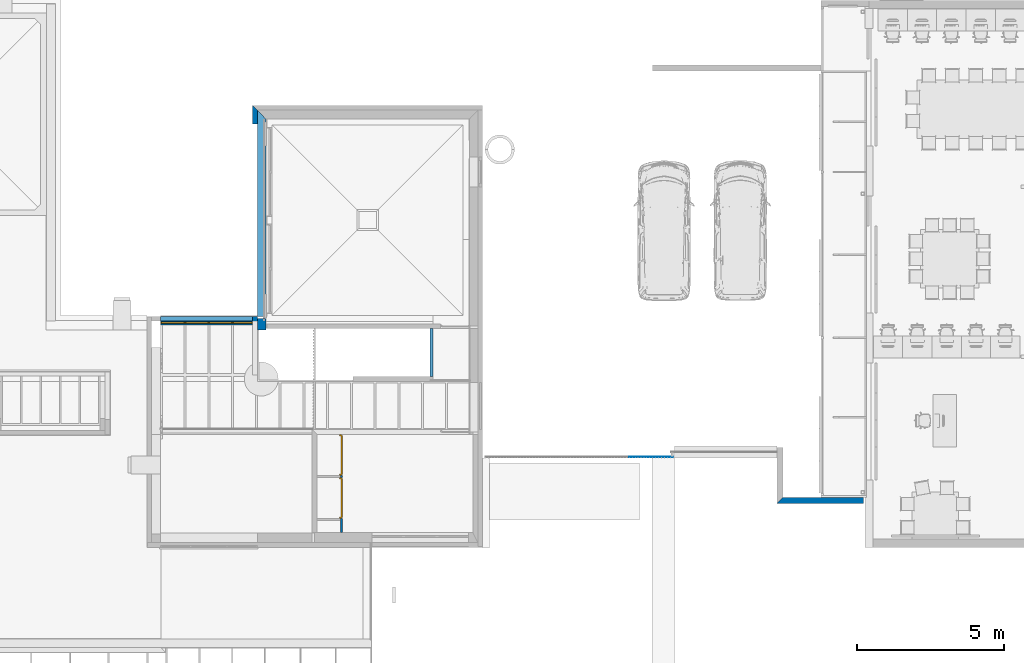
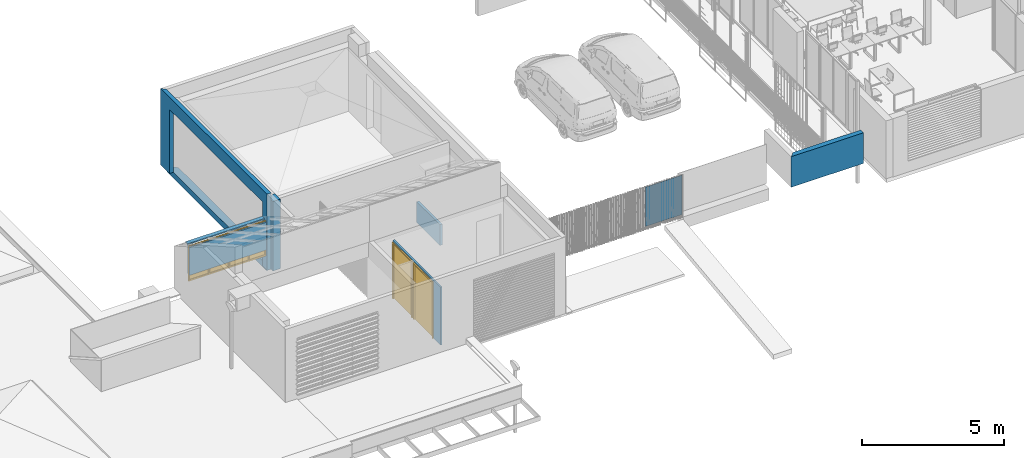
# One storey, part 16 of 51: 9 walls, 4 windows, 2 doors, 7 openings.
"""IFC2X3 building model written with IfcOpenShell, lengths in metres."""

from ifc_helpers import new_model, entity, si_unit, converted_unit, derived_unit, direction, frame, frame_2d, origin, place, context, subcontext, project, spatial, polyline, rectangle, outline, extrude, faceted_brep, source, transform, mapped, material, material_list, layer, layer_set, layer_usage, type_object, type_shapes, element, fill, save


model = new_model("IFC2X3")

# Units and contexts
model_context = context("Model", 3, precision=1e-05, world=origin(), true_north=direction((6.123031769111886e-17, 1.0)))
body_context = subcontext(model_context, "Body", "Model", "MODEL_VIEW")
ifc_project = project(units=[si_unit("LENGTHUNIT", "METRE"), si_unit("AREAUNIT", "SQUARE_METRE"), si_unit("VOLUMEUNIT", "CUBIC_METRE"), converted_unit("PLANEANGLEUNIT", "DEGREE", entity("IfcRatioMeasure", 0.017453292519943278), si_unit("PLANEANGLEUNIT", "RADIAN"), dimensions=[0, 0, 0, 0, 0, 0, 0]), si_unit("MASSUNIT", "GRAM", prefix="KILO"), derived_unit("MASSDENSITYUNIT", [(si_unit("MASSUNIT", "GRAM", prefix="KILO"), 1), (si_unit("LENGTHUNIT", "METRE"), -3)]), derived_unit("MOMENTOFINERTIAUNIT", [(si_unit("LENGTHUNIT", "METRE"), 4)]), si_unit("TIMEUNIT", "SECOND"), si_unit("FREQUENCYUNIT", "HERTZ"), si_unit("THERMODYNAMICTEMPERATUREUNIT", "DEGREE_CELSIUS"), derived_unit("THERMALTRANSMITTANCEUNIT", [(si_unit("MASSUNIT", "GRAM", prefix="KILO"), 1), (si_unit("THERMODYNAMICTEMPERATUREUNIT", "KELVIN"), -1), (si_unit("TIMEUNIT", "SECOND"), -3)]), derived_unit("THERMALCONDUCTANCEUNIT", [(si_unit("MASSUNIT", "GRAM", prefix="KILO"), 1), (si_unit("LENGTHUNIT", "METRE"), 1), (si_unit("THERMODYNAMICTEMPERATUREUNIT", "KELVIN"), -1), (si_unit("TIMEUNIT", "SECOND"), -3)]), derived_unit("VOLUMETRICFLOWRATEUNIT", [(si_unit("LENGTHUNIT", "METRE"), 3), (si_unit("TIMEUNIT", "SECOND"), -1)]), derived_unit("MASSFLOWRATEUNIT", [(si_unit("MASSUNIT", "GRAM", prefix="KILO"), 1), (si_unit("TIMEUNIT", "SECOND"), -1)]), derived_unit("ROTATIONALFREQUENCYUNIT", [(si_unit("TIMEUNIT", "SECOND"), -1)]), si_unit("ELECTRICCURRENTUNIT", "AMPERE"), si_unit("ELECTRICVOLTAGEUNIT", "VOLT"), si_unit("POWERUNIT", "WATT"), si_unit("FORCEUNIT", "NEWTON", prefix="KILO"), si_unit("ILLUMINANCEUNIT", "LUX"), si_unit("LUMINOUSFLUXUNIT", "LUMEN"), si_unit("LUMINOUSINTENSITYUNIT", "CANDELA"), derived_unit("USERDEFINED", [(si_unit("MASSUNIT", "GRAM", prefix="KILO"), -1), (si_unit("LENGTHUNIT", "METRE"), -2), (si_unit("TIMEUNIT", "SECOND"), 3), (si_unit("LUMINOUSFLUXUNIT", "LUMEN"), 1)]), derived_unit("USERDEFINED", [(si_unit("MASSUNIT", "GRAM", prefix="KILO"), 1), (si_unit("LENGTHUNIT", "METRE"), 3), (si_unit("TIMEUNIT", "SECOND"), -3), (si_unit("ELECTRICCURRENTUNIT", "AMPERE"), -2)]), derived_unit("USERDEFINED", [(si_unit("LENGTHUNIT", "METRE"), 2), (si_unit("TIMEUNIT", "SECOND"), -2)]), derived_unit("SOUNDPOWERUNIT", [(si_unit("MASSUNIT", "GRAM", prefix="KILO"), 1), (si_unit("LENGTHUNIT", "METRE"), 2), (si_unit("TIMEUNIT", "SECOND"), -3)]), derived_unit("SOUNDPRESSUREUNIT", [(si_unit("MASSUNIT", "GRAM", prefix="KILO"), 1), (si_unit("LENGTHUNIT", "METRE"), -1), (si_unit("TIMEUNIT", "SECOND"), -2)]), derived_unit("LINEARVELOCITYUNIT", [(si_unit("LENGTHUNIT", "METRE"), 1), (si_unit("TIMEUNIT", "SECOND"), -1)]), si_unit("PRESSUREUNIT", "PASCAL"), derived_unit("USERDEFINED", [(si_unit("LENGTHUNIT", "METRE"), -2), (si_unit("MASSUNIT", "GRAM", prefix="KILO"), 1), (si_unit("TIMEUNIT", "SECOND"), -2)]), derived_unit("LINEARFORCEUNIT", [(si_unit("MASSUNIT", "GRAM", prefix="KILO"), 1), (si_unit("LENGTHUNIT", "METRE"), 1), (si_unit("TIMEUNIT", "SECOND"), -2), (si_unit("LENGTHUNIT", "METRE"), -1)]), derived_unit("PLANARFORCEUNIT", [(si_unit("MASSUNIT", "GRAM", prefix="KILO"), 1), (si_unit("LENGTHUNIT", "METRE"), 1), (si_unit("TIMEUNIT", "SECOND"), -2), (si_unit("LENGTHUNIT", "METRE"), -2)]), derived_unit("SPECIFICHEATCAPACITYUNIT", [(si_unit("LENGTHUNIT", "METRE"), 2), (si_unit("TIMEUNIT", "SECOND"), -2), (si_unit("THERMODYNAMICTEMPERATUREUNIT", "KELVIN"), -1)]), derived_unit("VAPORPERMEABILITYUNIT", [(si_unit("TIMEUNIT", "SECOND"), 1), (si_unit("LENGTHUNIT", "METRE"), -1)]), derived_unit("DYNAMICVISCOSITYUNIT", [(si_unit("MASSUNIT", "GRAM", prefix="KILO"), 1), (si_unit("LENGTHUNIT", "METRE"), -1), (si_unit("TIMEUNIT", "SECOND"), -1)]), derived_unit("THERMALEXPANSIONCOEFFICIENTUNIT", [(si_unit("THERMODYNAMICTEMPERATUREUNIT", "KELVIN"), -1)])], contexts=[model_context])

# Site, building, storey
site_placement = place(None, origin())
site = spatial("IfcSite", under=ifc_project, at=site_placement, Name="Default", CompositionType="ELEMENT")
building_placement = place(site_placement, origin())
building = spatial("IfcBuilding", under=site, at=building_placement, CompositionType="ELEMENT")
storey_placement = place(building_placement, frame((0.0, 0.0, 3.06)))
storey = spatial("IfcBuildingStorey", under=building, at=storey_placement, Name="ÉTAGE", CompositionType="ELEMENT", Elevation=3.06)

# Walls
ifc_material_1 = material(Name="Appareillage - Pierre taillé")
ifc_layer_1 = layer(ifc_material_1, 0.29999999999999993)
ifc_layer_set_1 = layer_set([ifc_layer_1], Name="Mur de base:Struct. - Pierre 300")
ifc_layer_usage_1 = layer_usage(ifc_layer_set_1, "AXIS2", "NEGATIVE", 0.14999999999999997)
wall_type_1 = type_object("IfcWallType", Name="Mur de base:Struct. - Pierre 300", PredefinedType="STANDARD", material=ifc_layer_set_1)
wall_1_placement = place(storey_placement, frame((120.830752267, 15.467209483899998, -0.2599999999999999), z_axis=(0.0, 0.0, 1.0), x_axis=(0.0, 1.0, 0.0)))
element("IfcWallStandardCase", 1, at=wall_1_placement, inside=storey, type_object=wall_type_1, material=ifc_layer_usage_1, Name="MurExt-002", ObjectType="Mur de base:Struct. - Pierre 300", context=body_context, shape_type="SweptSolid", body=[
    extrude(outline(polyline([(6.720000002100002, -0.15000000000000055), (7.0300000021, 0.15000000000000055), (0.0, 0.15000000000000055), (0.0, 0.10999998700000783), (0.0, -0.14000001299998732), (0.0, -0.15000000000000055), (6.720000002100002, -0.15000000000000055)])), origin(), (0.0, 0.0, 1.0), 0.2599999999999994),
])
wall_2_placement = place(storey_placement, frame((120.830752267, 14.9972094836, 0.0), z_axis=(0.0, 0.0, 1.0), x_axis=(0.0, 1.0, 0.0)))
element("IfcWallStandardCase", 2, at=wall_2_placement, inside=storey, type_object=wall_type_1, material=ifc_layer_usage_1, Name="MurExt-002", ObjectType="Mur de base:Struct. - Pierre 300", context=body_context, shape_type="SweptSolid", body=[
    extrude(rectangle(XDim=0.39000000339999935, YDim=0.3000000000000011, at=frame_2d((0.19500000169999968, 0.0), x_axis=(-1.0, 0.0))), origin(), (0.0, 0.0, 1.0), 3.0000000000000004),
])

# Wall, opening
ifc_material_2 = material(Name="Enduit - Jaune nature")
ifc_layer_2 = layer(ifc_material_2, 0.02)
ifc_material_3 = material(Name="Isolation - Fibre de verre")
ifc_layer_3 = layer(ifc_material_3, 0.14)
ifc_layer_set_2 = layer_set([ifc_layer_2, ifc_layer_3], Name="Mur de base:ABA ITE 140 + enduit 160")
ifc_layer_usage_2 = layer_usage(ifc_layer_set_2, "AXIS2", "NEGATIVE", 0.08)
wall_type_2 = type_object("IfcWallType", Name="Mur de base:ABA ITE 140 + enduit 160", PredefinedType="STANDARD", material=ifc_layer_set_2)
wall_3_placement = place(storey_placement, frame((120.600752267, 15.127209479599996, 0.0), z_axis=(0.0, 0.0, 1.0), x_axis=(0.0, 1.0, 0.0)))
wall_3 = element("IfcWallStandardCase", 3, at=wall_3_placement, inside=storey, type_object=wall_type_2, material=ifc_layer_usage_2, Name="MurExt-002", ObjectType="Mur de base:ABA ITE 140 + enduit 160", context=body_context, shape_type="SweptSolid", body=[
    extrude(outline(polyline([(0.0, -0.07999999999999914), (7.370000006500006, -0.07999999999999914), (7.530000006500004, 0.07999999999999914), (0.0, 0.07999999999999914), (0.0, -0.07999999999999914)])), origin(), (0.0, 0.0, 1.0), 3.289999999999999),
])
opening_1_placement = place(wall_3_placement, origin())
element("IfcOpeningElement", 4, at=opening_1_placement, cuts=wall_3, Name="MurExt-002", ObjectType="Opening", context=body_context, shape_type="SweptSolid", body=[
    extrude(rectangle(XDim=2.7600000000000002, YDim=6.560000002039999, at=frame_2d((2.220446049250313e-16, 0.0), x_axis=(1.0, 0.0))), frame((3.6200000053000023, -0.07999999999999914, 1.3799999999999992), z_axis=(0.0, 1.0, 0.0), x_axis=(0.0, 0.0, 1.0)), (0.0, 0.0, 1.0), 0.31999999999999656),
])

# Wall, openings, windows
wall_4_placement = place(storey_placement, frame((117.38075227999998, 15.387209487, 2.09)))
wall_4 = element("IfcWallStandardCase", 5, at=wall_4_placement, inside=storey, type_object=wall_type_2, material=ifc_layer_usage_2, Name="MurExt-007", ObjectType="Mur de base:ABA ITE 140 + enduit 160", context=body_context, shape_type="SweptSolid", body=[
    extrude(rectangle(XDim=3.139999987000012, YDim=0.16000000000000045, at=frame_2d((1.569999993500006, -1.0824674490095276e-15), x_axis=(1.0, 0.0))), origin(), (0.0, 0.0, 1.0), 0.04999997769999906),
])
opening_2_placement = place(wall_4_placement, frame((-117.38075227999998, -15.387209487, -2.0900000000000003)))
opening_2 = element("IfcOpeningElement", 6, at=opening_2_placement, cuts=wall_4, Name="MurExt-007", ObjectType="Opening", context=body_context, shape_type="SweptSolid", body=[
    extrude(rectangle(XDim=1.52, YDim=0.8349999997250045, at=frame_2d((0.0, 4.996003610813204e-16), x_axis=(0.0, 1.0))), frame((117.798252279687, 15.225609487, 1.3299999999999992), z_axis=(0.0, 1.0, 0.0), x_axis=(-1.0, 0.0, 0.0)), (0.0, 0.0, 1.0), 0.32320000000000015),
])
opening_3_placement = place(wall_4_placement, frame((-117.38075227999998, -15.387209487, -2.0900000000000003)))
opening_3 = element("IfcOpeningElement", 7, at=opening_3_placement, cuts=wall_4, Name="MurExt-007", ObjectType="Opening", context=body_context, shape_type="SweptSolid", body=[
    extrude(rectangle(XDim=1.52, YDim=0.8100000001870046, at=frame_2d((-1.7319479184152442e-14, 4.996003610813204e-16), x_axis=(0.0, 1.0))), frame((118.62075227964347, 15.225609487, 1.3299999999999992), z_axis=(0.0, 1.0, 0.0), x_axis=(-1.0, 0.0, 0.0)), (0.0, 0.0, 1.0), 0.32320000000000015),
])
opening_4_placement = place(wall_4_placement, frame((-117.38075227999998, -15.387209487, -2.0900000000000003)))
opening_4 = element("IfcOpeningElement", 8, at=opening_4_placement, cuts=wall_4, Name="MurExt-007", ObjectType="Opening", context=body_context, shape_type="SweptSolid", body=[
    extrude(rectangle(XDim=1.52, YDim=0.8100000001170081, at=frame_2d((0.0, 4.996003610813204e-16), x_axis=(0.0, 1.0))), frame((119.43075227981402, 15.225609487, 1.3299999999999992), z_axis=(0.0, 1.0, 0.0), x_axis=(-1.0, 0.0, 0.0)), (0.0, 0.0, 1.0), 0.32320000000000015),
])
opening_5_placement = place(wall_4_placement, frame((-117.38075227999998, -15.387209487, -2.0900000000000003)))
opening_5 = element("IfcOpeningElement", 9, at=opening_5_placement, cuts=wall_4, Name="MurExt-007", ObjectType="Opening", context=body_context, shape_type="SweptSolid", body=[
    extrude(rectangle(XDim=1.52, YDim=0.6849999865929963, at=frame_2d((0.0, 4.996003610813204e-16), x_axis=(0.0, 1.0))), frame((120.17825227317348, 15.225609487, 1.3299999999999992), z_axis=(0.0, 1.0, 0.0), x_axis=(-1.0, 0.0, 0.0)), (0.0, 0.0, 1.0), 0.32320000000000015),
])
ifc_material_4 = material(Name="Peinture - Anthracite")
ifc_material_5 = material(Name="Transp. - Verre clair (rapide)")
ifc_material_list = material_list([ifc_material_4, ifc_material_5])
window_style_1 = type_object("IfcWindowStyle", Name="Fen-002", ConstructionType="NOTDEFINED", OperationType="NOTDEFINED", ParameterTakesPrecedence=False, Sizeable=False, material=ifc_material_list)
shared_shape_1 = source(origin(), body_context, "Body", "SweptSolid", [
    extrude(outline(polyline([(-0.7599999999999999, -0.4174999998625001), (0.7599999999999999, -0.4174999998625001), (0.7599999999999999, 0.4174999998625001), (-0.7599999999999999, 0.4174999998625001), (-0.7599999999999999, -0.4174999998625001)]), holes=[polyline([(0.7000000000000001, -0.3874999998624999), (-0.38999999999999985, -0.3874999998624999), (-0.38999999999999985, 0.3874999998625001), (0.7000000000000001, 0.3874999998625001), (0.7000000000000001, -0.3874999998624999)]), polyline([(-0.4399999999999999, 0.38749999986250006), (-0.4399999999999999, -0.38749999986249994), (-0.71, -0.3874999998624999), (-0.71, 0.3874999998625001), (-0.4399999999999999, 0.38749999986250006)])]), frame((0.4174999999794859, -0.321599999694, 0.7599999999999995), z_axis=(0.0, 1.0, 0.0), x_axis=(0.0, 0.0, -1.0)), (0.0, 0.0, 1.0), 0.05),
    extrude(rectangle(XDim=0.01000000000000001, YDim=0.7749999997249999, at=frame_2d((-8.239936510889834e-18, 1.749989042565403e-13), x_axis=(1.0, 0.0))), frame((0.41749999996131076, -0.296599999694, 1.2000999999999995), z_axis=(0.0, 0.0, 1.0), x_axis=(0.0, -1.0, 0.0)), (0.0, 0.0, 1.0), 0.2699),
    extrude(rectangle(XDim=0.01000000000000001, YDim=0.7749999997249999, at=frame_2d((-8.239936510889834e-18, 1.749989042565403e-13), x_axis=(1.0, 0.0))), frame((0.41749999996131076, -0.296599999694, 0.06009999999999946), z_axis=(0.0, 0.0, 1.0), x_axis=(0.0, -1.0, 0.0)), (0.0, 0.0, 1.0), 1.0898999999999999),
])
type_shapes(window_style_1, [shared_shape_1])
window_1_placement = place(opening_2_placement, frame((117.3807522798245, 15.548809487, 0.5699999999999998)))
window_1 = element("IfcWindow", 10, at=window_1_placement, inside=storey, type_object=window_style_1, material=ifc_material_list, Name="Fen-002 291228:Fen-002 291228", ObjectType="Fen-002 291228:Fen-002 291228", OverallHeight=1.5199999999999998, OverallWidth=0.8349999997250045, context=body_context, shape_type="MappedRepresentation", body=[
    mapped(shared_shape_1, transform((0.0, 0.0, 0.0), scale=1.0)),
])
fill(opening_2, window_1)
window_style_2 = type_object("IfcWindowStyle", Name="Fen-002", ConstructionType="NOTDEFINED", OperationType="NOTDEFINED", ParameterTakesPrecedence=False, Sizeable=False, material=ifc_material_list)
shared_shape_2 = source(origin(), body_context, "Body", "SweptSolid", [
    extrude(outline(polyline([(-0.7599999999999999, -0.40500000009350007), (0.7599999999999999, -0.40500000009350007), (0.7599999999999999, 0.40500000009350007), (-0.7599999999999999, 0.40500000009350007), (-0.7599999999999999, -0.40500000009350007)]), holes=[polyline([(0.7000000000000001, -0.3750000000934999), (-0.38999999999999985, -0.3750000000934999), (-0.38999999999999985, 0.3750000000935), (0.7000000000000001, 0.3750000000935), (0.7000000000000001, -0.3750000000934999)]), polyline([(-0.4399999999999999, 0.37500000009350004), (-0.4399999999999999, -0.37500000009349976), (-0.71, -0.3750000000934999), (-0.71, 0.3750000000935), (-0.4399999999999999, 0.37500000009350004)])]), frame((0.40500000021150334, -0.321599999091, 0.7599999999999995), z_axis=(0.0, 1.0, 0.0), x_axis=(0.0, 0.0, -1.0)), (0.0, 0.0, 1.0), 0.04999999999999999),
    extrude(rectangle(XDim=0.009999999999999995, YDim=0.750000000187, at=frame_2d((0.0, -7.505107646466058e-14), x_axis=(1.0, 0.0))), frame((0.4050000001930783, -0.29659999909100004, 1.2000999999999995), z_axis=(0.0, 0.0, 1.0), x_axis=(0.0, -1.0, 0.0)), (0.0, 0.0, 1.0), 0.2699),
    extrude(rectangle(XDim=0.009999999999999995, YDim=0.750000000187, at=frame_2d((0.0, -7.505107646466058e-14), x_axis=(1.0, 0.0))), frame((0.4050000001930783, -0.29659999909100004, 0.06009999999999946), z_axis=(0.0, 0.0, 1.0), x_axis=(0.0, -1.0, 0.0)), (0.0, 0.0, 1.0), 1.0898999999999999),
])
type_shapes(window_style_2, [shared_shape_2])
window_2_placement = place(opening_3_placement, frame((118.21575227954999, 15.548809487, 0.5699999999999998)))
window_2 = element("IfcWindow", 11, at=window_2_placement, inside=storey, type_object=window_style_2, material=ifc_material_list, Name="Fen-002 291508:Fen-002 291508", ObjectType="Fen-002 291508:Fen-002 291508", OverallHeight=1.5199999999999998, OverallWidth=0.8100000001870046, context=body_context, shape_type="MappedRepresentation", body=[
    mapped(shared_shape_2, transform((0.0, 0.0, 0.0), scale=1.0)),
])
fill(opening_3, window_2)
window_style_3 = type_object("IfcWindowStyle", Name="Fen-002", ConstructionType="NOTDEFINED", OperationType="NOTDEFINED", ParameterTakesPrecedence=False, Sizeable=False, material=ifc_material_list)
shared_shape_3 = source(origin(), body_context, "Body", "SweptSolid", [
    extrude(outline(polyline([(-0.7599999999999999, -0.40500000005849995), (0.7599999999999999, -0.40500000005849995), (0.7599999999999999, 0.40500000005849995), (-0.7599999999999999, 0.40500000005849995), (-0.7599999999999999, -0.40500000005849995)]), holes=[polyline([(0.7000000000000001, -0.37500000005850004), (-0.38999999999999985, -0.37500000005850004), (-0.38999999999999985, 0.37500000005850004), (0.7000000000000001, 0.37500000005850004), (0.7000000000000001, -0.37500000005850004)]), polyline([(-0.4399999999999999, 0.3750000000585), (-0.4399999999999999, -0.3750000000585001), (-0.71, -0.37500000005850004), (-0.71, 0.37500000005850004), (-0.4399999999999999, 0.3750000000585)])]), frame((0.4050000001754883, -0.32159999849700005, 0.7599999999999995), z_axis=(0.0, 1.0, 0.0), x_axis=(0.0, 0.0, -1.0)), (0.0, 0.0, 1.0), 0.04999999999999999),
    extrude(rectangle(XDim=0.010000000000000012, YDim=0.750000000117, at=frame_2d((-8.673617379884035e-18, 1.7494339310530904e-13), x_axis=(1.0, 0.0))), frame((0.40500000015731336, -0.29659999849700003, 1.2000999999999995), z_axis=(0.0, 0.0, 1.0), x_axis=(0.0, -1.0, 0.0)), (0.0, 0.0, 1.0), 0.2699),
    extrude(rectangle(XDim=0.010000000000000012, YDim=0.750000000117, at=frame_2d((-8.673617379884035e-18, 1.7494339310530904e-13), x_axis=(1.0, 0.0))), frame((0.40500000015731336, -0.29659999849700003, 0.06009999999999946), z_axis=(0.0, 0.0, 1.0), x_axis=(0.0, -1.0, 0.0)), (0.0, 0.0, 1.0), 1.0898999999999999),
])
type_shapes(window_style_3, [shared_shape_3])
window_3_placement = place(opening_4_placement, frame((119.02575227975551, 15.548809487, 0.5699999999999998)))
window_3 = element("IfcWindow", 12, at=window_3_placement, inside=storey, type_object=window_style_3, material=ifc_material_list, Name="Fen-002 291784:Fen-002 291784", ObjectType="Fen-002 291784:Fen-002 291784", OverallHeight=1.5199999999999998, OverallWidth=0.8100000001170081, context=body_context, shape_type="MappedRepresentation", body=[
    mapped(shared_shape_3, transform((0.0, 0.0, 0.0), scale=1.0)),
])
fill(opening_4, window_3)
window_style_4 = type_object("IfcWindowStyle", Name="Fen-002", ConstructionType="NOTDEFINED", OperationType="NOTDEFINED", ParameterTakesPrecedence=False, Sizeable=False, material=ifc_material_list)
shared_shape_4 = source(origin(), body_context, "Body", "SweptSolid", [
    extrude(outline(polyline([(-0.7599999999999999, -0.34249999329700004), (0.7599999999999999, -0.34249999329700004), (0.7599999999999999, 0.34249999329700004), (-0.7599999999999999, 0.34249999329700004), (-0.7599999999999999, -0.34249999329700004)]), holes=[polyline([(0.7000000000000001, -0.31249999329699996), (-0.38999999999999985, -0.31249999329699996), (-0.38999999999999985, 0.31249999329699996), (0.7000000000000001, 0.3124999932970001), (0.7000000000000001, -0.31249999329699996)]), polyline([(-0.4399999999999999, 0.31249999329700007), (-0.4399999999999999, -0.3124999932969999), (-0.71, -0.31249999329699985), (-0.71, 0.31249999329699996), (-0.4399999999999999, 0.31249999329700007)])]), frame((0.34249999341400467, -0.321599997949, 0.7599999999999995), z_axis=(0.0, 1.0, 0.0), x_axis=(0.0, 0.0, -1.0)), (0.0, 0.0, 1.0), 0.04999999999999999),
    extrude(rectangle(XDim=0.009999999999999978, YDim=0.6249999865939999, at=frame_2d((8.239936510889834e-18, -7.49678097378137e-14), x_axis=(1.0, 0.0))), frame((0.3424999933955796, -0.29659999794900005, 1.2000999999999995), z_axis=(0.0, 0.0, 1.0), x_axis=(0.0, -1.0, 0.0)), (0.0, 0.0, 1.0), 0.2699),
    extrude(rectangle(XDim=0.009999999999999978, YDim=0.6249999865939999, at=frame_2d((8.239936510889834e-18, -7.49678097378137e-14), x_axis=(1.0, 0.0))), frame((0.3424999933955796, -0.29659999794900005, 0.06009999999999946), z_axis=(0.0, 0.0, 1.0), x_axis=(0.0, -1.0, 0.0)), (0.0, 0.0, 1.0), 1.0898999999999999),
])
type_shapes(window_style_4, [shared_shape_4])
window_4_placement = place(opening_5_placement, frame((119.83575227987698, 15.548809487, 0.5699999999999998)))
window_4 = element("IfcWindow", 13, at=window_4_placement, inside=storey, type_object=window_style_4, material=ifc_material_list, Name="Fen-002 292060:Fen-002 292060", ObjectType="Fen-002 292060:Fen-002 292060", OverallHeight=1.5199999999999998, OverallWidth=0.6849999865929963, context=body_context, shape_type="MappedRepresentation", body=[
    mapped(shared_shape_4, transform((0.0, 0.0, 0.0), scale=1.0)),
])
fill(opening_5, window_4)

# Walls
ifc_material_6 = material(Name="Béton - Parpaing (Blocs)")
ifc_layer_4 = layer(ifc_material_6, 0.2)
ifc_layer_set_3 = layer_set([ifc_layer_4], Name="Mur de base:Struct. - Parpaing béton 200")
ifc_layer_usage_3 = layer_usage(ifc_layer_set_3, "AXIS2", "NEGATIVE", 0.1)
wall_type_3 = type_object("IfcWallType", Name="Mur de base:Struct. - Parpaing béton 200", PredefinedType="STANDARD", material=ifc_layer_set_3)
wall_5_placement = place(storey_placement, frame((141.35075228, 9.18720952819, 0.9899999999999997), z_axis=(0.0, 0.0, 1.0), x_axis=(-1.0, 0.0, 0.0)))
element("IfcWallStandardCase", 14, at=wall_5_placement, inside=storey, type_object=wall_type_3, material=ifc_layer_usage_3, Name="MurExt-021", ObjectType="Mur de base:Struct. - Parpaing béton 200", context=body_context, shape_type="SweptSolid", body=[
    extrude(outline(polyline([(2.750000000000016, -0.1), (2.950000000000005, 0.1), (0.0, 0.1), (0.0, -0.1), (2.750000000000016, -0.1)])), origin(), (0.0, 0.0, 1.0), 1.3199999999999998),
])
ifc_layer_5 = layer(ifc_material_1, 0.1)
ifc_layer_set_4 = layer_set([ifc_layer_5], Name="Mur de base:Struct. - Pierre 100")
ifc_layer_usage_4 = layer_usage(ifc_layer_set_4, "AXIS2", "NEGATIVE", 0.05)
wall_type_4 = type_object("IfcWallType", Name="Mur de base:Struct. - Pierre 100", PredefinedType="STANDARD", material=ifc_layer_set_4)
wall_6_placement = place(storey_placement, frame((126.62075229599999, 13.4072094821, 0.0), z_axis=(0.0, 0.0, 1.0), x_axis=(0.0, 1.0, 0.0)))
element("IfcWallStandardCase", 15, at=wall_6_placement, inside=storey, type_object=wall_type_4, material=ifc_layer_usage_4, Name="MurExt-004", ObjectType="Mur de base:Struct. - Pierre 100", context=body_context, shape_type="SweptSolid", body=[
    extrude(rectangle(XDim=1.6399999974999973, YDim=0.10000000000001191, at=frame_2d((0.8199999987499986, 0.0), x_axis=(-1.0, 0.0))), origin(), (0.0, 0.0, 1.0), 0.9),
])
ifc_material_7 = material(Name="Bois - Pin granuleux horizontal")
ifc_layer_6 = layer(ifc_material_7, 0.14)
ifc_layer_set_5 = layer_set([ifc_layer_6], Name="Mur de base:Bois - Massif 01 140")
ifc_layer_usage_5 = layer_usage(ifc_layer_set_5, "AXIS2", "NEGATIVE", 0.07)
wall_type_5 = type_object("IfcWallType", Name="Mur de base:Bois - Massif 01 140", PredefinedType="STANDARD", material=ifc_layer_set_5)
wall_7_placement = place(storey_placement, frame((117.380752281, 15.237209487, 0.8699999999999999)))
element("IfcWallStandardCase", 16, at=wall_7_placement, inside=storey, type_object=wall_type_5, material=ifc_layer_usage_5, Name="MurExt-007", ObjectType="Mur de base:Bois - Massif 01 140", context=body_context, shape_type="SweptSolid", body=[
    extrude(rectangle(XDim=3.139999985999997, YDim=0.1399999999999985, at=frame_2d((1.5699999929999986, 0.0), x_axis=(-1.0, 0.0))), origin(), (0.0, 0.0, 1.0), 1.1900000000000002),
])

# Wall, openings, doors
ifc_material_8 = material(Name="Plâtre - Plaques de plâtre")
ifc_layer_7 = layer(ifc_material_8, 0.013)
ifc_layer_8 = layer(ifc_material_3, 0.044)
ifc_layer_9 = layer(ifc_material_8, 0.013)
ifc_layer_set_6 = layer_set([ifc_layer_7, ifc_layer_8, ifc_layer_9], Name="Mur de base:ABA cloison 7cm 70")
ifc_layer_usage_6 = layer_usage(ifc_layer_set_6, "AXIS2", "NEGATIVE", 0.034999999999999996)
wall_type_6 = type_object("IfcWallType", Name="Mur de base:ABA cloison 7cm 70", PredefinedType="STANDARD", material=ifc_layer_set_6)
wall_8_placement = place(storey_placement, frame((123.555752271, 11.437209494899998, 0.0), z_axis=(0.0, 0.0, 1.0), x_axis=(0.0, -1.0, 0.0)))
wall_8 = element("IfcWallStandardCase", 17, at=wall_8_placement, inside=storey, type_object=wall_type_6, material=ifc_layer_usage_6, Name="MurExt-025", ObjectType="Mur de base:ABA cloison 7cm 70", context=body_context, shape_type="SweptSolid", body=[
    extrude(rectangle(XDim=3.3500000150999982, YDim=0.07000000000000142, at=frame_2d((1.6750000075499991, -8.663209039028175e-15), x_axis=(1.0, 0.0))), origin(), (0.0, 0.0, 1.0), 2.499999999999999),
])
opening_6_placement = place(wall_8_placement, frame((11.437209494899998, -123.555752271, 0.0), z_axis=(0.0, 0.0, 1.0), x_axis=(0.0, 1.0, 0.0)))
opening_6 = element("IfcOpeningElement", 18, at=opening_6_placement, cuts=wall_8, Name="MurExt-025", ObjectType="Opening", context=body_context, shape_type="SweptSolid", body=[
    extrude(rectangle(XDim=2.44, YDim=1.4000000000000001, at=frame_2d((0.0, 0.0), x_axis=(0.0, 1.0))), frame((123.484352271, 9.2672094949, 1.2199999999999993), z_axis=(1.0, 0.0, 0.0), x_axis=(0.0, -1.0, 0.0)), (0.0, 0.0, 1.0), 0.1428000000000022),
])
opening_7_placement = place(wall_8_placement, frame((11.437209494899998, -123.555752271, 0.0), z_axis=(0.0, 0.0, 1.0), x_axis=(0.0, 1.0, 0.0)))
opening_7 = element("IfcOpeningElement", 19, at=opening_7_placement, cuts=wall_8, Name="MurExt-025", ObjectType="Opening", context=body_context, shape_type="SweptSolid", body=[
    extrude(rectangle(XDim=2.44, YDim=1.4000000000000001, at=frame_2d((1.1102230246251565e-15, 0.0), x_axis=(0.0, 1.0))), frame((123.484352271, 10.737209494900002, 1.2199999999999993), z_axis=(1.0, 0.0, 0.0), x_axis=(0.0, -1.0, 0.0)), (0.0, 0.0, 1.0), 0.1428000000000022),
])
ifc_material_9 = material(Name="Peinture - Gris clair")
door_style = type_object("IfcDoorStyle", Name="Por-004", ConstructionType="NOTDEFINED", OperationType="DOUBLE_DOOR_SINGLE_SWING", ParameterTakesPrecedence=False, Sizeable=False, material=ifc_material_9)
shared_shape_5 = source(origin(), body_context, "Body", "Brep", [
    faceted_brep([(0.0, -0.0714, 0.0), (0.0, -0.0714, 2.44), (1.4, -0.0714, 2.44), (1.4, -0.0714, 0.0), (1.365, -0.0714, 0.0), (1.365, -0.0714, 2.405), (0.03499999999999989, -0.0714, 2.405), (0.03499999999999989, -0.0714, 0.0), (0.0, -0.1414, 0.0), (0.0, -0.1414, 2.44), (1.4, -0.1414, 2.44), (1.4, -0.1414, 0.0), (1.35, -0.1414, 0.0), (1.35, -0.0864, 0.0), (1.365, -0.0864, 0.0), (1.365, -0.0864, 2.405), (0.03499999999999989, -0.0864, 2.405), (0.03499999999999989, -0.0864, 0.0), (0.04999999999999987, -0.0864, 0.0), (0.04999999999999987, -0.1414, 0.0), (1.35, -0.1414, 2.39), (0.04999999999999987, -0.1414, 2.39), (1.35, -0.0864, 2.39), (0.04999999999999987, -0.0864, 2.39), (1.3625, -0.046400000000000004, 0.0), (1.3625, -0.0864, 0.0), (0.7024999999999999, -0.0864, 0.0), (0.7024999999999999, -0.046400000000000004, 0.0), (1.3625, -0.046400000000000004, 2.405), (1.3625, -0.0864, 2.405), (0.7024999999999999, -0.0864, 2.405), (0.7024999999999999, -0.046400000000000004, 2.405), (0.03499999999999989, -0.046400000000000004, 0.0), (0.7, -0.046400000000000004, 0.0), (0.7, -0.0864, 0.0), (0.03499999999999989, -0.046400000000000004, 2.405), (0.7, -0.046400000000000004, 2.405), (0.7, -0.0864, 2.405), (0.6849999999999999, -0.041400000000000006, 0.0), (0.6849999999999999, -0.041400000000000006, 2.405), (0.7149999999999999, -0.041400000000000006, 2.405), (0.7149999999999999, -0.041400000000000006, 0.0), (0.6849999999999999, -0.046400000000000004, 0.0), (0.6849999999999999, -0.046400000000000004, 2.405), (0.7149999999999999, -0.046400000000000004, 2.405), (0.7149999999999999, -0.046400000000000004, 0.0)], [[[0, 1, 2, 3, 4, 5, 6, 7]], [[8, 9, 1, 0]], [[9, 10, 2, 1]], [[10, 11, 3, 2]], [[3, 11, 12, 13, 14, 4]], [[5, 4, 14, 15]], [[6, 5, 15, 16]], [[7, 6, 16, 17]], [[0, 7, 17, 18, 19, 8]], [[19, 8, 9, 10, 11, 12, 20, 21]], [[22, 13, 12, 20]], [[17, 16, 15, 14, 13, 22, 23, 18]], [[18, 23, 21, 19]], [[23, 22, 20, 21]], [[24, 25, 26, 27]], [[28, 29, 25, 24]], [[25, 29, 30, 26]], [[27, 26, 30, 31]], [[24, 27, 31, 28]], [[31, 30, 29, 28]], [[32, 33, 34, 17]], [[32, 35, 36, 33]], [[33, 36, 37, 34]], [[17, 34, 37, 16]], [[35, 32, 17, 16]], [[36, 35, 16, 37]], [[38, 39, 40, 41]], [[38, 42, 43, 39]], [[39, 43, 44, 40]], [[40, 44, 45, 41]], [[41, 45, 42, 38]], [[45, 44, 43, 42]]]),
])
type_shapes(door_style, [shared_shape_5])
door_1_placement = place(opening_6_placement, frame((123.62715227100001, 9.967209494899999, 0.0), z_axis=(0.0, 0.0, 1.0), x_axis=(0.0, -1.0, 0.0)))
door_1 = element("IfcDoor", 20, at=door_1_placement, inside=storey, type_object=door_style, material=ifc_material_9, Name="Por-004 444825:Por-004 444825", ObjectType="Por-004 444825:Por-004 444825", OverallHeight=2.44, OverallWidth=1.4000000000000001, context=body_context, shape_type="MappedRepresentation", body=[
    mapped(shared_shape_5, transform((0.0, 0.0, 0.0), scale=1.0)),
])
fill(opening_6, door_1)
door_2_placement = place(opening_7_placement, frame((123.62715227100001, 11.437209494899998, 0.0), z_axis=(0.0, 0.0, 1.0), x_axis=(0.0, -1.0, 0.0)))
door_2 = element("IfcDoor", 21, at=door_2_placement, inside=storey, type_object=door_style, material=ifc_material_9, Name="Por-004 444825:Por-004 444825", ObjectType="Por-004 444825:Por-004 444825", OverallHeight=2.44, OverallWidth=1.4000000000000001, context=body_context, shape_type="MappedRepresentation", body=[
    mapped(shared_shape_5, transform((0.0, 0.0, 0.0), scale=1.0)),
])
fill(opening_7, door_2)

# Wall
ifc_material_10 = material(Name="Métal - Fer")
ifc_layer_10 = layer(ifc_material_10, 0.01)
ifc_layer_set_7 = layer_set([ifc_layer_10], Name="Mur de base:Métal - Fer 10")
ifc_layer_usage_7 = layer_usage(ifc_layer_set_7, "AXIS2", "NEGATIVE", 0.005)
wall_type_7 = type_object("IfcWallType", Name="Mur de base:Métal - Fer 10", PredefinedType="STANDARD", material=ifc_layer_set_7)
wall_9_placement = place(storey_placement, frame((133.36575227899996, 10.672209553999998, 0.10000000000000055)))
element("IfcWallStandardCase", 22, at=wall_9_placement, inside=storey, type_object=wall_type_7, material=ifc_layer_usage_7, Name="MurExt-026", ObjectType="Mur de base:Métal - Fer 10", context=body_context, shape_type="SweptSolid", body=[
    extrude(rectangle(XDim=1.5000000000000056, YDim=0.010000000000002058, at=frame_2d((0.7500000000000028, 0.0), x_axis=(-1.0, 0.0))), origin(), (0.0, 0.0, 1.0), 1.699999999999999),
])

save(model, "model.ifc")
